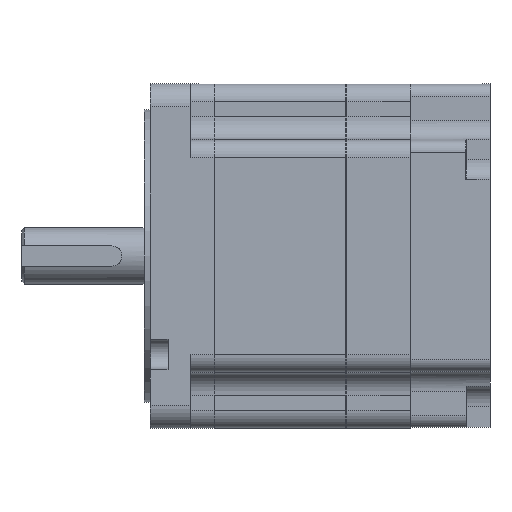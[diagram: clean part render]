
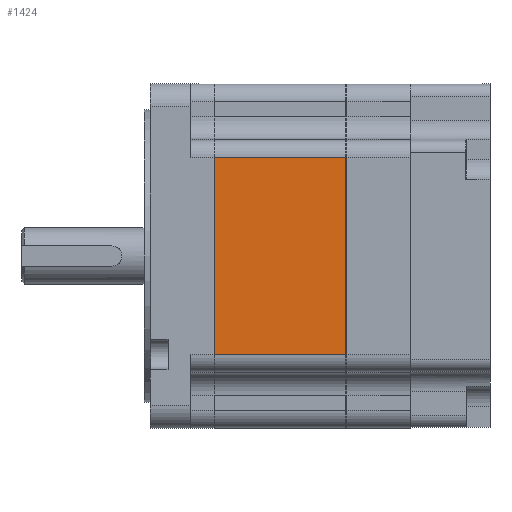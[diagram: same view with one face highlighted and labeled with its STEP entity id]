
A CAD part, left-side view. The second image highlights one B-rep face of the part: STEP entity #1424.
In plain terms, the highlighted planar face has unit normal (-1, 0, 0).
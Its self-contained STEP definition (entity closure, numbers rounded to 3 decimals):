
#251 = LINE ( 'NONE', #7321, #9873 ) ;
#789 = ORIENTED_EDGE ( 'NONE', *, *, #1506, .F. ) ;
#998 = ORIENTED_EDGE ( 'NONE', *, *, #5118, .F. ) ;
#1424 = ADVANCED_FACE ( 'NONE', ( #13306 ), #3941, .F. ) ;
#1506 = EDGE_CURVE ( 'NONE', #1705, #6665, #251, .T. ) ;
#1705 = VERTEX_POINT ( 'NONE', #4738 ) ;
#1763 = CARTESIAN_POINT ( 'NONE',  ( -43., -6.008, 24.65 ) ) ;
#2869 = ORIENTED_EDGE ( 'NONE', *, *, #8796, .T. ) ;
#3047 = EDGE_LOOP ( 'NONE', ( #12486, #2869, #998, #789 ) ) ;
#3401 = VERTEX_POINT ( 'NONE', #4792 ) ;
#3941 = PLANE ( 'NONE',  #7515 ) ;
#4324 = LINE ( 'NONE', #6562, #10651 ) ;
#4526 = LINE ( 'NONE', #11731, #4827 ) ;
#4738 = CARTESIAN_POINT ( 'NONE',  ( -43., -38.992, -24.65 ) ) ;
#4792 = CARTESIAN_POINT ( 'NONE',  ( -43., -38.992, 24.65 ) ) ;
#4827 = VECTOR ( 'NONE', #6416, 1000. ) ;
#4963 = DIRECTION ( 'NONE',  ( 1., 0., 0. ) ) ;
#5118 = EDGE_CURVE ( 'NONE', #6665, #8001, #5862, .T. ) ;
#5471 = DIRECTION ( 'NONE',  ( 0., 0., -1. ) ) ;
#5862 = LINE ( 'NONE', #7894, #12975 ) ;
#6416 = DIRECTION ( 'NONE',  ( 0., 1., 0. ) ) ;
#6562 = CARTESIAN_POINT ( 'NONE',  ( -43., -38.992, 37.3 ) ) ;
#6665 = VERTEX_POINT ( 'NONE', #9061 ) ;
#7321 = CARTESIAN_POINT ( 'NONE',  ( -43., -55., -24.65 ) ) ;
#7515 = AXIS2_PLACEMENT_3D ( 'NONE', #12029, #4963, #7995 ) ;
#7894 = CARTESIAN_POINT ( 'NONE',  ( -43., -6.008, 37.3 ) ) ;
#7995 = DIRECTION ( 'NONE',  ( 0., 0., -1. ) ) ;
#8001 = VERTEX_POINT ( 'NONE', #1763 ) ;
#8095 = DIRECTION ( 'NONE',  ( 0., 0., 1. ) ) ;
#8392 = DIRECTION ( 'NONE',  ( 0., 1., 0. ) ) ;
#8743 = EDGE_CURVE ( 'NONE', #3401, #1705, #4324, .T. ) ;
#8796 = EDGE_CURVE ( 'NONE', #3401, #8001, #4526, .T. ) ;
#9061 = CARTESIAN_POINT ( 'NONE',  ( -43., -6.008, -24.65 ) ) ;
#9873 = VECTOR ( 'NONE', #8392, 1000. ) ;
#10651 = VECTOR ( 'NONE', #5471, 1000. ) ;
#11731 = CARTESIAN_POINT ( 'NONE',  ( -43., -55., 24.65 ) ) ;
#12029 = CARTESIAN_POINT ( 'NONE',  ( -43., 10., 37.3 ) ) ;
#12486 = ORIENTED_EDGE ( 'NONE', *, *, #8743, .F. ) ;
#12975 = VECTOR ( 'NONE', #8095, 1000. ) ;
#13306 = FACE_OUTER_BOUND ( 'NONE', #3047, .T. ) ;
